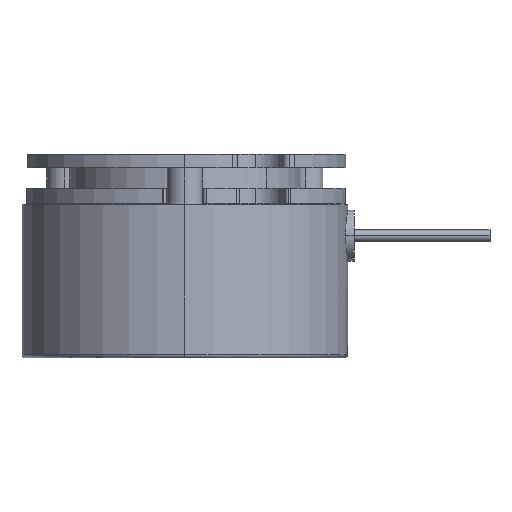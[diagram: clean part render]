
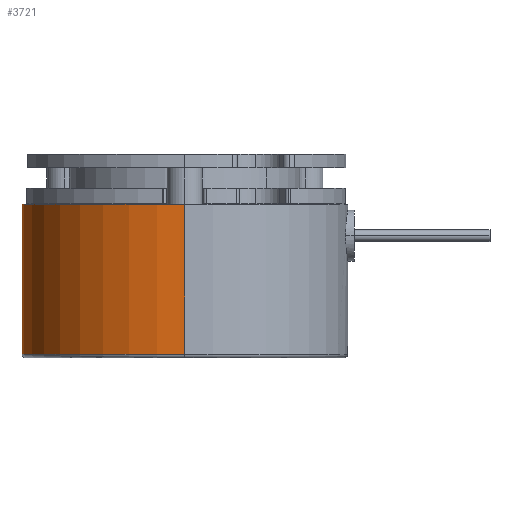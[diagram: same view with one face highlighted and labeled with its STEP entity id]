
A CAD part, left-side view. The second image highlights one B-rep face of the part: STEP entity #3721.
In plain terms, the highlighted cylindrical face has radius 24 mm (diameter 48 mm), a partial arc.
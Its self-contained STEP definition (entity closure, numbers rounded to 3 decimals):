
#444 = DIRECTION ( 'NONE',  ( 0., 0., -1. ) ) ;
#450 = CARTESIAN_POINT ( 'NONE',  ( -24., 0., -5.4 ) ) ;
#462 = DIRECTION ( 'NONE',  ( 1., 0., 0. ) ) ;
#463 = DIRECTION ( 'NONE',  ( 0., 0., 1. ) ) ;
#464 = CARTESIAN_POINT ( 'NONE',  ( 0., 0., -5.4 ) ) ;
#1109 = AXIS2_PLACEMENT_3D ( 'NONE', #4620, #4608, #4607 ) ;
#3490 = EDGE_CURVE ( 'NONE', #8001, #8007, #5698, .T. ) ;
#3566 = EDGE_CURVE ( 'NONE', #7956, #8001, #5717, .T. ) ;
#3588 = EDGE_CURVE ( 'NONE', #6811, #8007, #5784, .T. ) ;
#3592 = EDGE_CURVE ( 'NONE', #7956, #6811, #5656, .T. ) ;
#3627 = CARTESIAN_POINT ( 'NONE',  ( 24., 0., -5.4 ) ) ;
#3721 = ADVANCED_FACE ( 'NONE', ( #5320 ), #5325, .T. ) ;
#4184 = AXIS2_PLACEMENT_3D ( 'NONE', #464, #463, #462 ) ;
#4237 = AXIS2_PLACEMENT_3D ( 'NONE', #8192, #8191, #8190 ) ;
#4607 = DIRECTION ( 'NONE',  ( -1., 0., 0. ) ) ;
#4608 = DIRECTION ( 'NONE',  ( 0., 0., -1. ) ) ;
#4620 = CARTESIAN_POINT ( 'NONE',  ( 0., 0., -5.4 ) ) ;
#5320 = FACE_OUTER_BOUND ( 'NONE', #5884, .T. ) ;
#5325 = CYLINDRICAL_SURFACE ( 'NONE', #1109, 24. ) ;
#5656 = CIRCLE ( 'NONE', #4184, 24. ) ;
#5669 = VECTOR ( 'NONE', #7415, 1000. ) ;
#5698 = CIRCLE ( 'NONE', #4237, 24. ) ;
#5717 = LINE ( 'NONE', #3627, #5669 ) ;
#5759 = VECTOR ( 'NONE', #444, 1000. ) ;
#5784 = LINE ( 'NONE', #450, #5759 ) ;
#5884 = EDGE_LOOP ( 'NONE', ( #8039, #7950, #7841, #7801 ) ) ;
#6156 = CARTESIAN_POINT ( 'NONE',  ( 24., 0., -5.4 ) ) ;
#6204 = CARTESIAN_POINT ( 'NONE',  ( -24., 0., -5.4 ) ) ;
#6250 = CARTESIAN_POINT ( 'NONE',  ( 24., 0., -27.5 ) ) ;
#6328 = CARTESIAN_POINT ( 'NONE',  ( -24., 0., -27.5 ) ) ;
#6811 = VERTEX_POINT ( 'NONE', #6204 ) ;
#7415 = DIRECTION ( 'NONE',  ( 0., 0., -1. ) ) ;
#7801 = ORIENTED_EDGE ( 'NONE', *, *, #3588, .F. ) ;
#7841 = ORIENTED_EDGE ( 'NONE', *, *, #3490, .T. ) ;
#7950 = ORIENTED_EDGE ( 'NONE', *, *, #3566, .T. ) ;
#7956 = VERTEX_POINT ( 'NONE', #6156 ) ;
#8001 = VERTEX_POINT ( 'NONE', #6250 ) ;
#8007 = VERTEX_POINT ( 'NONE', #6328 ) ;
#8039 = ORIENTED_EDGE ( 'NONE', *, *, #3592, .F. ) ;
#8190 = DIRECTION ( 'NONE',  ( 1., 0., 0. ) ) ;
#8191 = DIRECTION ( 'NONE',  ( 0., 0., 1. ) ) ;
#8192 = CARTESIAN_POINT ( 'NONE',  ( 0., 0., -27.5 ) ) ;
